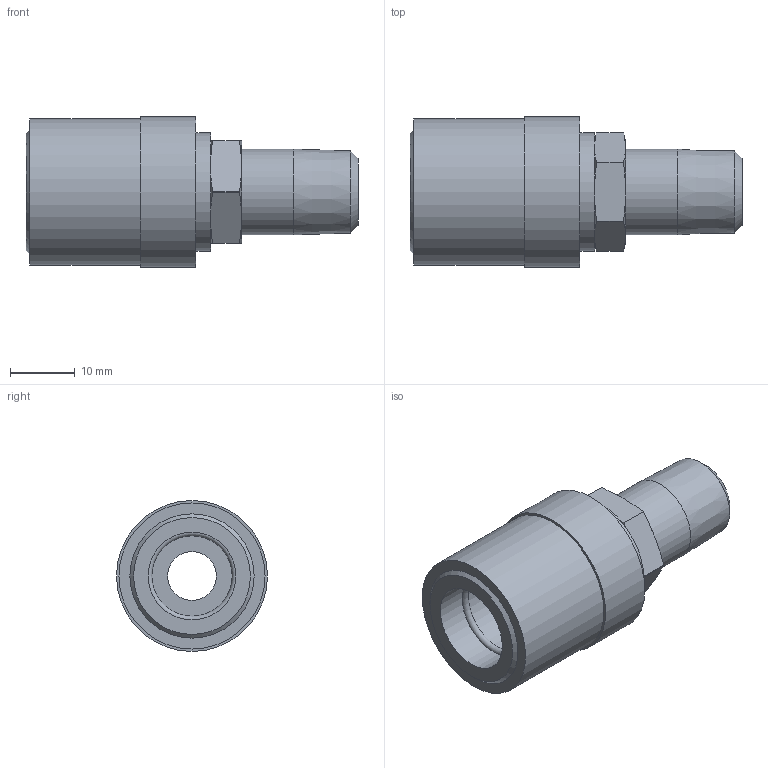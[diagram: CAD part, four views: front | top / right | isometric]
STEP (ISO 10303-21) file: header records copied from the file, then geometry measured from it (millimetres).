
FILE_DESCRIPTION(/* description */ ('STEP AP214'),/* implementation_level */ '2;1');
FILE_NAME(/* name */ 'JS-302-MV',/* time_stamp */ '2024-12-19T08:59:52+01:00',/* author */ ('License CC BY-ND 4.0'),/* organization */ ('CADENAS'),/* preprocessor_version */ 'ST-DEVELOPER v19.3',/* originating_system */ 'PARTsolutions',/* authorisation */ ' ');
FILE_SCHEMA (('AUTOMOTIVE_DESIGN {1 0 10303 214 3 1 1}'));
Length unit declared in the file: inch
Products named in the file (1): JS-302-MV
Bounding box: 51.37 x 23.37 x 23.37 mm (x, y, z)
Volume: 10960.8 mm3; surface area: 5278.4 mm2
Topology: 1 solids, 1 shells, 40 faces, 92 edges, 60 vertices
Faces by surface type: plane 16, cone 15, cylinder 8, torus 1
Full cylindrical faces by diameter (mm): 7.518 x1, 13.254 x1, 13.564 x2, 18.334 x1, 22.606 x1, 23.368 x1
Entity records: 1145 total; most frequent: CARTESIAN_POINT 266, DIRECTION 167, ORIENTED_EDGE 162, EDGE_CURVE 81, AXIS2_PLACEMENT_3D 73, VERTEX_POINT 60, EDGE_LOOP 59, FACE_BOUND 59
